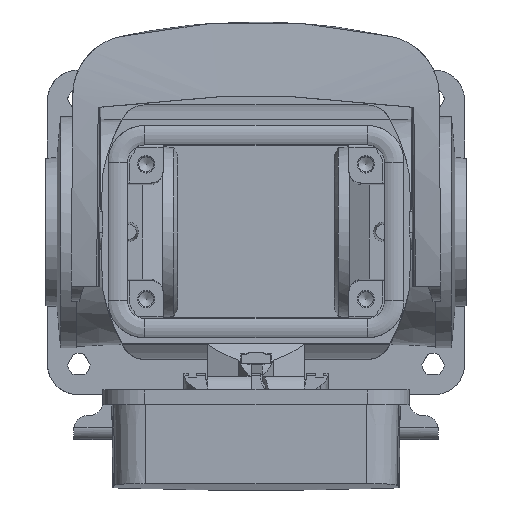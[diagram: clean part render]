
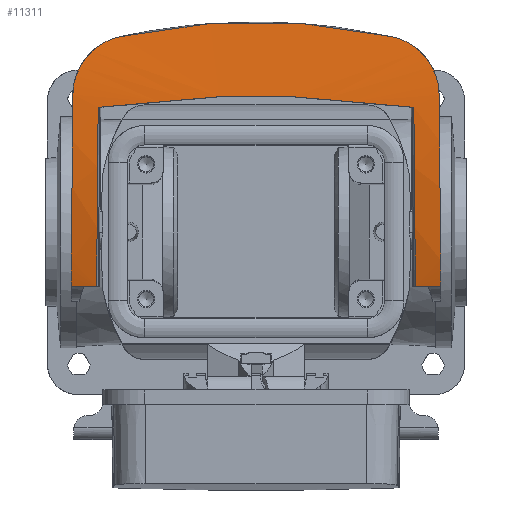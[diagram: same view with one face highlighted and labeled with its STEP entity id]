
A CAD part, top view. The second image highlights one B-rep face of the part: STEP entity #11311.
In plain terms, the highlighted cylindrical face has radius 120 mm (diameter 240 mm), a partial arc.
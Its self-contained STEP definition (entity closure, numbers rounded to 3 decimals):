
#9839=B_SPLINE_CURVE_WITH_KNOTS('',3,(#42853,#42854,#42855,#42856,#42857,
#42858),.UNSPECIFIED.,.F.,.F.,(4,2,4),(0.,0.5,1.),.UNSPECIFIED.);
#9840=B_SPLINE_CURVE_WITH_KNOTS('',3,(#42860,#42861,#42862,#42863,#42864,
#42865,#42866,#42867),.UNSPECIFIED.,.F.,.F.,(4,2,2,4),(0.,0.5,0.75,1.),
 .UNSPECIFIED.);
#9841=B_SPLINE_CURVE_WITH_KNOTS('',3,(#42869,#42870,#42871,#42872,#42873,
#42874),.UNSPECIFIED.,.F.,.F.,(4,2,4),(0.,0.5,1.),.UNSPECIFIED.);
#10114=CYLINDRICAL_SURFACE('',#34452,120.);
#10338=ELLIPSE('',#34445,120.005,120.);
#10339=ELLIPSE('',#34446,120.005,120.);
#10340=ELLIPSE('',#34448,120.005,120.);
#10341=ELLIPSE('',#34449,1376.846,120.);
#10342=ELLIPSE('',#34450,1376.846,120.);
#10343=ELLIPSE('',#34451,120.005,120.);
#10763=CIRCLE('',#34444,120.);
#10764=CIRCLE('',#34447,120.);
#11311=ADVANCED_FACE('',(#12730),#10114,.T.);
#12730=FACE_OUTER_BOUND('',#13504,.T.);
#13504=EDGE_LOOP('',(#14575,#14576,#14577,#14578,#14579,#14580,#14581,#14582,
#14583,#14584,#14585,#14586,#14587,#14588));
#14575=ORIENTED_EDGE('',*,*,#22971,.T.);
#14576=ORIENTED_EDGE('',*,*,#22972,.F.);
#14577=ORIENTED_EDGE('',*,*,#22973,.T.);
#14578=ORIENTED_EDGE('',*,*,#22974,.T.);
#14579=ORIENTED_EDGE('',*,*,#22975,.F.);
#14580=ORIENTED_EDGE('',*,*,#22976,.F.);
#14581=ORIENTED_EDGE('',*,*,#22977,.F.);
#14582=ORIENTED_EDGE('',*,*,#22978,.F.);
#14583=ORIENTED_EDGE('',*,*,#22979,.T.);
#14584=ORIENTED_EDGE('',*,*,#22980,.F.);
#14585=ORIENTED_EDGE('',*,*,#22981,.F.);
#14586=ORIENTED_EDGE('',*,*,#22982,.F.);
#14587=ORIENTED_EDGE('',*,*,#22983,.T.);
#14588=ORIENTED_EDGE('',*,*,#22984,.T.);
#19198=VERTEX_POINT('',#42847);
#19199=VERTEX_POINT('',#42848);
#19200=VERTEX_POINT('',#42850);
#19201=VERTEX_POINT('',#42852);
#19202=VERTEX_POINT('',#42859);
#19203=VERTEX_POINT('',#42868);
#19204=VERTEX_POINT('',#42875);
#19205=VERTEX_POINT('',#42877);
#19206=VERTEX_POINT('',#42879);
#19207=VERTEX_POINT('',#42881);
#19208=VERTEX_POINT('',#42883);
#19209=VERTEX_POINT('',#42885);
#19210=VERTEX_POINT('',#42887);
#19211=VERTEX_POINT('',#42889);
#22971=EDGE_CURVE('',#19198,#19199,#26915,.T.);
#22972=EDGE_CURVE('',#19200,#19199,#10763,.T.);
#22973=EDGE_CURVE('',#19200,#19201,#10338,.T.);
#22974=EDGE_CURVE('',#19201,#19202,#9839,.T.);
#22975=EDGE_CURVE('',#19203,#19202,#9840,.T.);
#22976=EDGE_CURVE('',#19204,#19203,#9841,.T.);
#22977=EDGE_CURVE('',#19205,#19204,#10339,.T.);
#22978=EDGE_CURVE('',#19206,#19205,#10764,.T.);
#22979=EDGE_CURVE('',#19206,#19207,#26916,.T.);
#22980=EDGE_CURVE('',#19208,#19207,#10340,.T.);
#22981=EDGE_CURVE('',#19209,#19208,#10341,.T.);
#22982=EDGE_CURVE('',#19210,#19209,#26917,.T.);
#22983=EDGE_CURVE('',#19210,#19211,#10342,.T.);
#22984=EDGE_CURVE('',#19211,#19198,#10343,.T.);
#26915=LINE('',#42846,#29629);
#26916=LINE('',#42880,#29630);
#26917=LINE('',#42886,#29631);
#29629=VECTOR('',#36396,1.);
#29630=VECTOR('',#36405,1.);
#29631=VECTOR('',#36410,1.);
#34444=AXIS2_PLACEMENT_3D('',#42849,#36397,#36398);
#34445=AXIS2_PLACEMENT_3D('',#42851,#36399,#36400);
#34446=AXIS2_PLACEMENT_3D('',#42876,#36401,#36402);
#34447=AXIS2_PLACEMENT_3D('',#42878,#36403,#36404);
#34448=AXIS2_PLACEMENT_3D('',#42882,#36406,#36407);
#34449=AXIS2_PLACEMENT_3D('',#42884,#36408,#36409);
#34450=AXIS2_PLACEMENT_3D('',#42888,#36411,#36412);
#34451=AXIS2_PLACEMENT_3D('',#42890,#36413,#36414);
#34452=AXIS2_PLACEMENT_3D('',#42891,#36415,#36416);
#36396=DIRECTION('',(1.,0.,0.));
#36397=DIRECTION('',(1.,0.,0.));
#36398=DIRECTION('',(0.,0.,1.));
#36399=DIRECTION('',(-1.,-0.009,0.));
#36400=DIRECTION('',(0.009,-1.,0.));
#36401=DIRECTION('',(-1.,0.009,0.));
#36402=DIRECTION('',(0.009,1.,0.));
#36403=DIRECTION('',(-1.,0.,0.));
#36404=DIRECTION('',(0.,0.,-1.));
#36405=DIRECTION('',(1.,0.,0.));
#36406=DIRECTION('',(1.,-0.009,0.));
#36407=DIRECTION('',(0.009,1.,0.));
#36408=DIRECTION('',(0.087,-0.996,0.));
#36409=DIRECTION('',(0.996,0.087,0.));
#36410=DIRECTION('',(-1.,0.,0.));
#36411=DIRECTION('',(0.087,0.996,0.));
#36412=DIRECTION('',(0.996,-0.087,0.));
#36413=DIRECTION('',(1.,0.009,0.));
#36414=DIRECTION('',(0.009,-1.,0.));
#36415=DIRECTION('',(1.,0.,0.));
#36416=DIRECTION('',(0.,0.,1.));
#42846=CARTESIAN_POINT('',(37.,-11.,25.743));
#42847=CARTESIAN_POINT('',(31.946,-11.,25.743));
#42848=CARTESIAN_POINT('',(37.,-11.,25.743));
#42849=CARTESIAN_POINT('',(37.,23.157,-89.293));
#42850=CARTESIAN_POINT('',(37.,-5.729,27.178));
#42851=CARTESIAN_POINT('',(36.748,23.157,-89.293));
#42852=CARTESIAN_POINT('',(36.711,27.42,30.631));
#42853=CARTESIAN_POINT('',(36.711,27.42,30.631));
#42854=CARTESIAN_POINT('',(36.687,30.129,30.535));
#42855=CARTESIAN_POINT('',(35.748,32.746,30.342));
#42856=CARTESIAN_POINT('',(32.357,36.95,29.93));
#42857=CARTESIAN_POINT('',(30.,38.422,29.733));
#42858=CARTESIAN_POINT('',(27.358,39.02,29.654));
#42859=CARTESIAN_POINT('',(27.358,39.02,29.654));
#42860=CARTESIAN_POINT('',(-27.358,39.02,29.654));
#42861=CARTESIAN_POINT('',(-18.383,41.05,29.383));
#42862=CARTESIAN_POINT('',(-9.183,42.001,29.218));
#42863=CARTESIAN_POINT('',(4.611,42.,29.218));
#42864=CARTESIAN_POINT('',(9.214,41.756,29.258));
#42865=CARTESIAN_POINT('',(18.342,40.773,29.408));
#42866=CARTESIAN_POINT('',(22.87,40.035,29.518));
#42867=CARTESIAN_POINT('',(27.358,39.02,29.654));
#42868=CARTESIAN_POINT('',(-27.358,39.02,29.654));
#42869=CARTESIAN_POINT('',(-36.711,27.42,30.631));
#42870=CARTESIAN_POINT('',(-36.687,30.129,30.535));
#42871=CARTESIAN_POINT('',(-35.748,32.744,30.342));
#42872=CARTESIAN_POINT('',(-32.359,36.949,29.93));
#42873=CARTESIAN_POINT('',(-30.,38.422,29.733));
#42874=CARTESIAN_POINT('',(-27.358,39.02,29.654));
#42875=CARTESIAN_POINT('',(-36.711,27.42,30.631));
#42876=CARTESIAN_POINT('',(-36.748,23.157,-89.293));
#42877=CARTESIAN_POINT('',(-37.,-5.729,27.178));
#42878=CARTESIAN_POINT('',(-37.,23.157,-89.293));
#42879=CARTESIAN_POINT('',(-37.,-11.,25.743));
#42880=CARTESIAN_POINT('',(-37.,-11.,25.743));
#42881=CARTESIAN_POINT('',(-31.946,-11.,25.743));
#42882=CARTESIAN_POINT('',(-31.648,23.157,-89.293));
#42883=CARTESIAN_POINT('',(-31.633,24.879,30.694));
#42884=CARTESIAN_POINT('',(-51.31,23.157,-89.293));
#42885=CARTESIAN_POINT('',(-7.39,27.,30.645));
#42886=CARTESIAN_POINT('',(-7.39,27.,30.645));
#42887=CARTESIAN_POINT('',(7.39,27.,30.645));
#42888=CARTESIAN_POINT('',(51.31,23.157,-89.293));
#42889=CARTESIAN_POINT('',(31.633,24.879,30.694));
#42890=CARTESIAN_POINT('',(31.648,23.157,-89.293));
#42891=CARTESIAN_POINT('',(-37.,23.157,-89.293));
